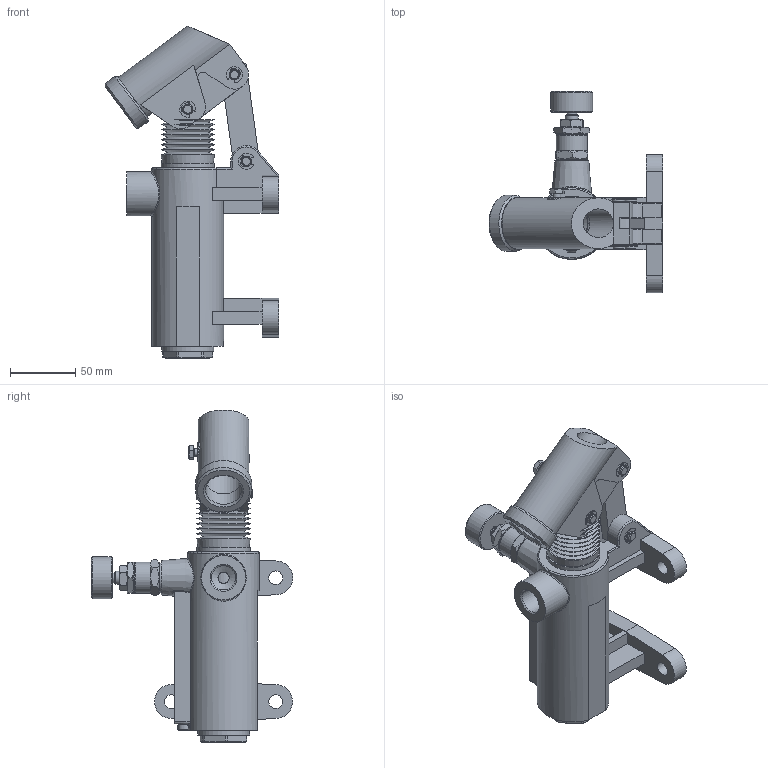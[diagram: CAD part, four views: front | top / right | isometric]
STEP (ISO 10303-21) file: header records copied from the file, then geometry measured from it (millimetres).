
FILE_DESCRIPTION(/* description */ ('Unknown'),/* implementation_level */ '2;1');
FILE_NAME(/* name */ 'HP70RS',/* time_stamp */ '2024-11-27T15:28:28+01:00',/* author */ ('Unknown'),/* organization */ ('Unknown'),/* preprocessor_version */ 'ST-DEVELOPER v19.4',/* originating_system */ 'Solid Edge',/* authorisation */ 'Unknown');
FILE_SCHEMA (('AUTOMOTIVE_DESIGN {1 0 10303 214 3 1 1}'));
Length unit declared in the file: millimetre
Products named in the file (1): HP70RS
Bounding box: 133.48 x 154.66 x 254.78 mm (x, y, z)
Volume: 606612.2 mm3; surface area: 178636.9 mm2
Topology: 6 solids, 6 shells, 683 faces, 1714 edges, 1086 vertices
Faces by surface type: plane 283, cylinder 222, cone 116, torus 36, bspline 23, sphere 3
Full cylindrical faces by diameter (mm): 1.7 x2, 1.8 x2, 2 x2, 3 x2, 4 x1, 4.917 x1, 5 x1, 5.1 x2, 5.15 x1, 5.994 x3, 6 x3, 7.792 x6, 7.8 x1, 7.95 x1, 8 x4, 8.092 x2, 8.1 x5, 8.4 x1, 8.5 x1, 8.6 x1, 8.7 x1, 9.99 x3, 10 x4, 10.6 x4, 11 x2, 12.2 x2, 13 x1, 14.5 x1, 14.8 x1, 14.9 x3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
Entity records: 24706 total; most frequent: CARTESIAN_POINT 6044, DIRECTION 3101, ORIENTED_EDGE 2722, EDGE_CURVE 1361, AXIS2_PLACEMENT_3D 1287, FACE_BOUND 1025, EDGE_LOOP 1024, VERTEX_POINT 970
